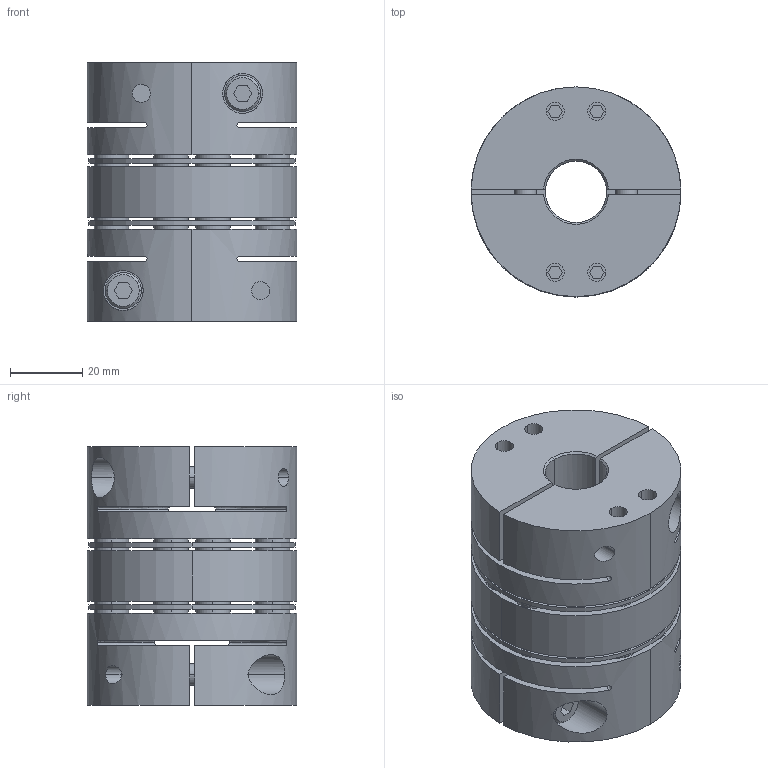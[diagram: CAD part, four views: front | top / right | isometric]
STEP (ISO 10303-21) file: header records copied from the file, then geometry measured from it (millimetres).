
FILE_DESCRIPTION((''),'2;1');
FILE_NAME('TAD-58C-17×24.stp','2022-11-13T22:21:52',(''),(''),'AutoCAD STEP 2000i','AutoCAD 2000i',', , ');
FILE_SCHEMA(('CONFIG_CONTROL_DESIGN'));
Length unit declared in the file: millimetre
Products named in the file (7): TAD-58C-12×22; 忣兜1; TA58C-22; CAP-M6×20; TA58C-12-2; TA58C-12; TAS-58C-ITA
Assembly tree (8 placements, depth 3):
  TAD-58C-12×22
    忣兜1
    TA58C-22
      CAP-M6×20
    TA58C-12-2
      CAP-M6×20
    TA58C-12
      CAP-M6×20
    TAS-58C-ITA
Bounding box: 58 x 58 x 71.5 mm (x, y, z)
Volume: 132657.5 mm3; surface area: 55424.8 mm2
Topology: 1 solids, 5 shells, 568 faces, 1365 edges, 937 vertices
Faces by surface type: plane 252, cylinder 228, cone 72, bspline 16
Entity records: 18651 total; most frequent: CARTESIAN_POINT 4810, DIRECTION 3008, ORIENTED_EDGE 2640, EDGE_CURVE 1320, AXIS2_PLACEMENT_3D 1142, VERTEX_POINT 860, EDGE_LOOP 724, VECTOR 724
